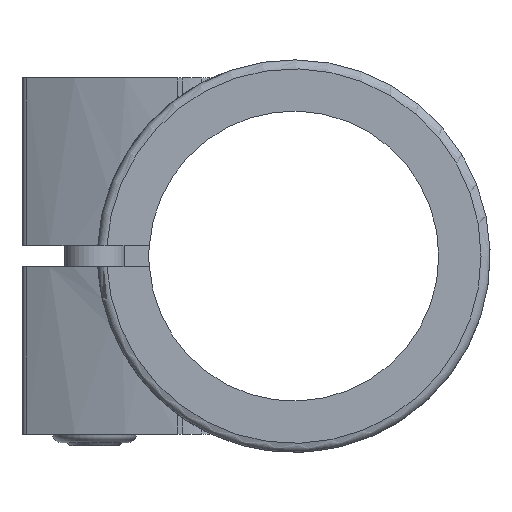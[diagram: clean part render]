
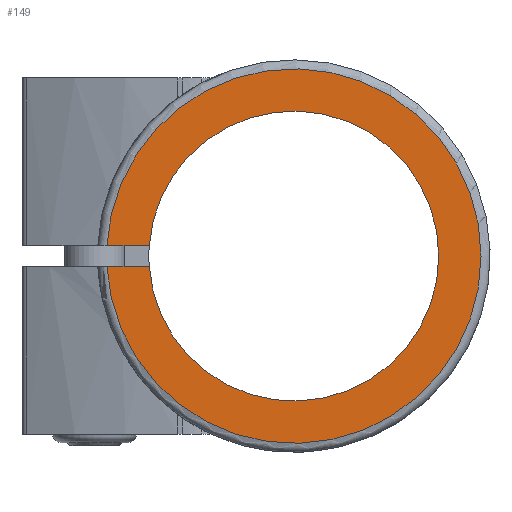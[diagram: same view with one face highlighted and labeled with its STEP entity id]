
A CAD part, left-side view. The second image highlights one B-rep face of the part: STEP entity #149.
In plain terms, the highlighted planar face has unit normal (-1, 0, 0).
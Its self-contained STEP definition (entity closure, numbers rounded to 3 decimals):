
#149 = ADVANCED_FACE( '', ( #404 ), #405, .F. );
#404 = FACE_OUTER_BOUND( '', #758, .T. );
#405 = PLANE( '', #759 );
#758 = EDGE_LOOP( '', ( #1549, #1550, #1551, #1552 ) );
#759 = AXIS2_PLACEMENT_3D( '', #1553, #1554, #1555 );
#1549 = ORIENTED_EDGE( '', *, *, #2522, .F. );
#1550 = ORIENTED_EDGE( '', *, *, #2273, .F. );
#1551 = ORIENTED_EDGE( '', *, *, #2526, .F. );
#1552 = ORIENTED_EDGE( '', *, *, #2287, .F. );
#1553 = CARTESIAN_POINT( '', ( 0., 0., 0. ) );
#1554 = DIRECTION( '', ( 1., 0., 0. ) );
#1555 = DIRECTION( '', ( 0., 0., -1. ) );
#2273 = EDGE_CURVE( '', #2710, #2711, #2712, .T. );
#2287 = EDGE_CURVE( '', #2737, #2739, #2740, .T. );
#2522 = EDGE_CURVE( '', #2711, #2737, #3156, .F. );
#2526 = EDGE_CURVE( '', #2739, #2710, #3160, .T. );
#2710 = VERTEX_POINT( '', #3442 );
#2711 = VERTEX_POINT( '', #3443 );
#2712 = LINE( '', #3444, #3445 );
#2737 = VERTEX_POINT( '', #3489 );
#2739 = VERTEX_POINT( '', #3492 );
#2740 = LINE( '', #3493, #3494 );
#3156 = CIRCLE( '', #4261, 24. );
#3160 = CIRCLE( '', #4265, 31. );
#3442 = CARTESIAN_POINT( '', ( 0., 30.951, -1.75 ) );
#3443 = CARTESIAN_POINT( '', ( 0., 23.936, -1.75 ) );
#3444 = CARTESIAN_POINT( '', ( 0., 0., -1.75 ) );
#3445 = VECTOR( '', #4753, 1000. );
#3489 = CARTESIAN_POINT( '', ( 0., 23.936, 1.75 ) );
#3492 = CARTESIAN_POINT( '', ( 0., 30.951, 1.75 ) );
#3493 = CARTESIAN_POINT( '', ( 0., 0., 1.75 ) );
#3494 = VECTOR( '', #4776, 1000. );
#4261 = AXIS2_PLACEMENT_3D( '', #5137, #5138, #5139 );
#4265 = AXIS2_PLACEMENT_3D( '', #5149, #5150, #5151 );
#4753 = DIRECTION( '', ( 0., -1., 0. ) );
#4776 = DIRECTION( '', ( 0., 1., 0. ) );
#5137 = CARTESIAN_POINT( '', ( 0., 0., 0. ) );
#5138 = DIRECTION( '', ( 1., 0., 0. ) );
#5139 = DIRECTION( '', ( 0., 0., -1. ) );
#5149 = CARTESIAN_POINT( '', ( 0., 0., 0. ) );
#5150 = DIRECTION( '', ( 1., 0., 0. ) );
#5151 = DIRECTION( '', ( 0., 0., -1. ) );
